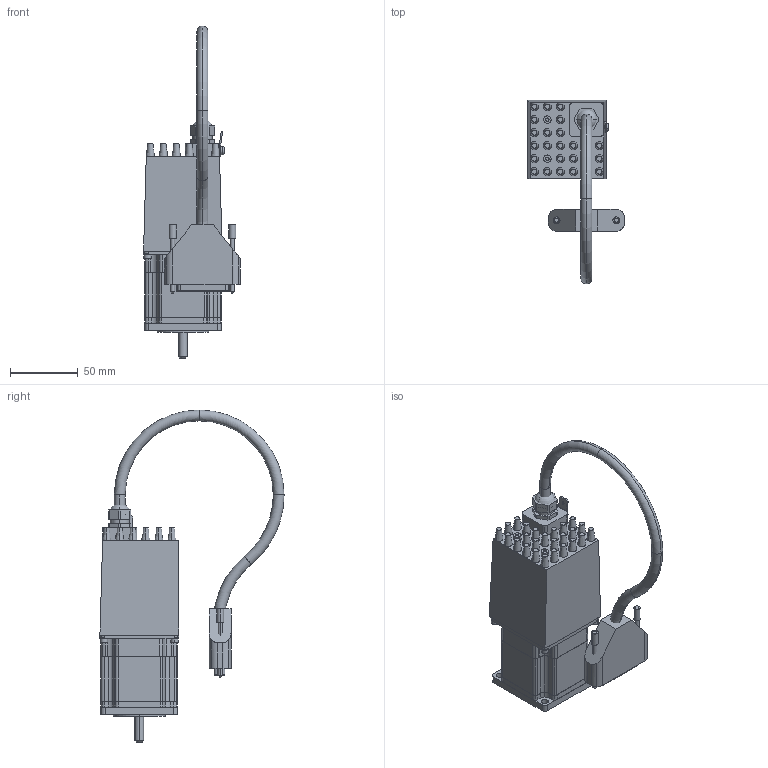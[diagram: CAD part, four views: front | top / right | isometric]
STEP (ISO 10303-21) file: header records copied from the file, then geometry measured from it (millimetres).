
FILE_DESCRIPTION(('STEP AP214'),'1');
FILE_NAME('Z:\toNS\tmp0.step',' ',(' '),(' '),'XStep 1.0',' ',' ');
FILE_SCHEMA(('automotive_design'));
Length unit declared in the file: millimetre
Products named in the file (181): 141; 142; 143; 140
Bounding box: 71.45 x 135.79 x 244.78 mm (x, y, z)
Volume: 452981.5 mm3; surface area: 94288.5 mm2
Topology: 52 solids, 183 shells, 572 faces, 2407 edges, 2076 vertices
Faces by surface type: plane 215, cylinder 158, revolution 116, cone 56, bspline 15, torus 10, sphere 2
Entity records: 35581 total; most frequent: CARTESIAN_POINT 8263, DIRECTION 3572, ORIENTED_EDGE 3382, EDGE_CURVE 2405, VERTEX_POINT 2076, AXIS2_PLACEMENT_3D 1329, B_SPLINE_CURVE_WITH_KNOTS 1016, LINE 798
